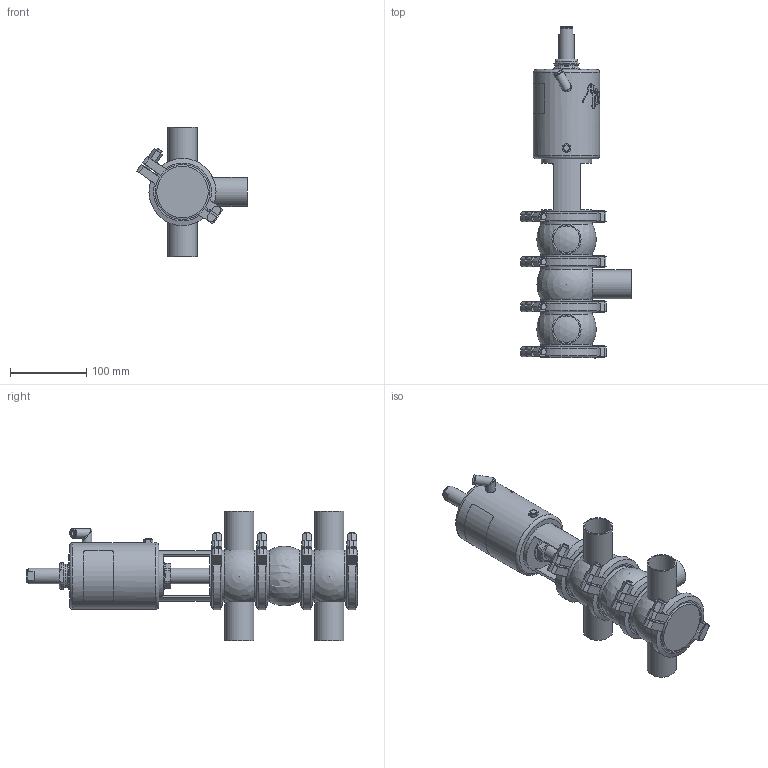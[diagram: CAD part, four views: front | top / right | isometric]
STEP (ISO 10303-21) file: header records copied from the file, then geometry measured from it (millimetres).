
FILE_DESCRIPTION (( 'STEP AP214' ), '1' );
FILE_NAME ('INNOVA L W W OD 1½ T1 AS NC_10.241.16.0028.STEP', '2024-08-07T07:08:43', ( '' ), ( '' ), 'SwSTEP 2.0', 'SolidWorks 2023', '' );
FILE_SCHEMA (( 'AUTOMOTIVE_DESIGN' ));
Length unit declared in the file: millimetre
Products named in the file (7): 10.240.15.0007_OD 1½"; 10.240.15.0006_OD 1½"; 10.240.15.0010_DN 040; 10.241.15.0001_DIN 040; 10.240.15.0014_T1 AS P180; INNOVA L W W OD 1½ T1 AS NC_10.241.16.0028; 10.240.15.0001_DN 040
Assembly tree (10 placements, depth 2):
  INNOVA L W W OD 1½ T1 AS NC_10.241.16.0028
    10.240.15.0007_OD 1½"  x2
    10.240.15.0006_OD 1½"
    10.240.15.0010_DN 040
    10.240.15.0014_T1 AS P180
    10.240.15.0001_DN 040  x4
    10.241.15.0001_DIN 040
Bounding box: 145.13 x 435.07 x 170 mm (x, y, z)
Volume: 1767226.6 mm3; surface area: 293037.2 mm2
Topology: 11 solids, 11 shells, 540 faces, 1412 edges, 920 vertices
Faces by surface type: plane 262, cylinder 140, bspline 80, cone 46, sphere 8, torus 4
Full cylindrical faces by diameter (mm): 6.15 x1, 8 x9, 8.5 x1, 10.5 x1, 12.5 x3, 16 x1, 20 x2, 31 x1, 34.5 x2, 34.8 x5, 36.5 x1, 38.1 x5, 66 x1, 67.5 x7, 79.5 x8, 87 x1
Entity records: 19653 total; most frequent: CARTESIAN_POINT 10224, ORIENTED_EDGE 1624, DIRECTION 1275, EDGE_CURVE 812, VERTEX_POINT 563, AXIS2_PLACEMENT_3D 493, EDGE_LOOP 431, FACE_OUTER_BOUND 386
